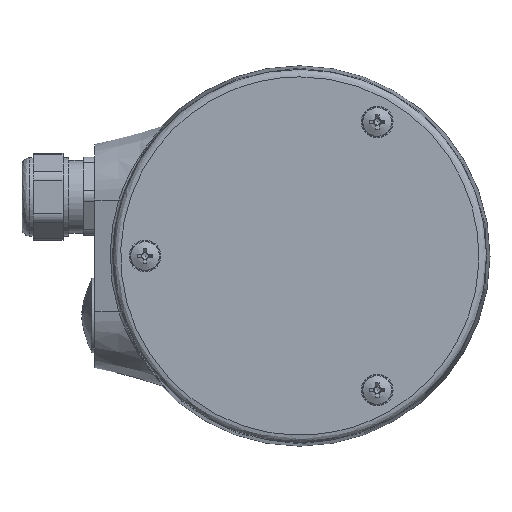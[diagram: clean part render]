
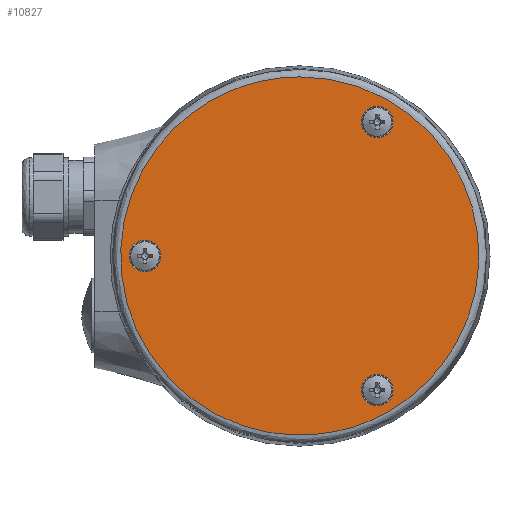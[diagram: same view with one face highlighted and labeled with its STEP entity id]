
A CAD part, front view. The second image highlights one B-rep face of the part: STEP entity #10827.
In plain terms, the highlighted planar face has unit normal (0, -1, 0).
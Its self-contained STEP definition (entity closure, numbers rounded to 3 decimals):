
#33 = EDGE_CURVE ( 'NONE', #2209, #2209, #8458, .T. ) ;
#52 = CARTESIAN_POINT ( 'NONE',  ( -91.393, -65.287, 98.963 ) ) ;
#86 = VERTEX_POINT ( 'NONE', #3898 ) ;
#307 = DIRECTION ( 'NONE',  ( 0., 0., -1. ) ) ;
#638 = CARTESIAN_POINT ( 'NONE',  ( -45.319, -65.287, 147. ) ) ;
#939 = FACE_BOUND ( 'NONE', #5767, .T. ) ;
#957 = CARTESIAN_POINT ( 'NONE',  ( 4.681, -65.287, 195.037 ) ) ;
#1042 = CARTESIAN_POINT ( 'NONE',  ( 25.431, -65.287, 106.81 ) ) ;
#1562 = PLANE ( 'NONE',  #10450 ) ;
#1829 = DIRECTION ( 'NONE',  ( 0., 0., -1. ) ) ;
#2209 = VERTEX_POINT ( 'NONE', #1042 ) ;
#2488 = DIRECTION ( 'NONE',  ( 0., 1., 0. ) ) ;
#2734 = EDGE_LOOP ( 'NONE', ( #10940 ) ) ;
#2738 = CARTESIAN_POINT ( 'NONE',  ( 4.681, -65.287, 195.037 ) ) ;
#2975 = CARTESIAN_POINT ( 'NONE',  ( 4.681, -65.287, 195.037 ) ) ;
#3248 = DIRECTION ( 'NONE',  ( 0., -1., 0. ) ) ;
#3352 = FACE_BOUND ( 'NONE', #2734, .T. ) ;
#3359 = FACE_OUTER_BOUND ( 'NONE', #5930, .T. ) ;
#3444 = FACE_BOUND ( 'NONE', #5339, .T. ) ;
#3898 = CARTESIAN_POINT ( 'NONE',  ( -36.819, -65.287, 142.75 ) ) ;
#4198 = EDGE_CURVE ( 'NONE', #7491, #7491, #9987, .T. ) ;
#4417 = EDGE_CURVE ( 'NONE', #86, #86, #7873, .T. ) ;
#4548 = DIRECTION ( 'NONE',  ( 0., -1., 0. ) ) ;
#5339 = EDGE_LOOP ( 'NONE', ( #9088 ) ) ;
#5417 = CARTESIAN_POINT ( 'NONE',  ( 4.681, -65.287, 98.963 ) ) ;
#5552 = ORIENTED_EDGE ( 'NONE', *, *, #4198, .F. ) ;
#5686 = DIRECTION ( 'NONE',  ( 0., -1., 0. ) ) ;
#5767 = EDGE_LOOP ( 'NONE', ( #6855 ) ) ;
#5930 = EDGE_LOOP ( 'NONE', ( #5552 ) ) ;
#6277 = CARTESIAN_POINT ( 'NONE',  ( -91.393, -65.287, 195.037 ) ) ;
#6855 = ORIENTED_EDGE ( 'NONE', *, *, #33, .F. ) ;
#7193 = AXIS2_PLACEMENT_3D ( 'NONE', #11053, #5686, #307 ) ;
#7292 = AXIS2_PLACEMENT_3D ( 'NONE', #10024, #3248, #1829 ) ;
#7491 = VERTEX_POINT ( 'NONE', #2975 ) ;
#7736 = AXIS2_PLACEMENT_3D ( 'NONE', #9854, #4548, #10776 ) ;
#7873 = CIRCLE ( 'NONE', #7193, 4.25 ) ;
#8031 = CARTESIAN_POINT ( 'NONE',  ( 100.755, -65.287, 195.037 ) ) ;
#8458 = CIRCLE ( 'NONE', #7292, 4.25 ) ;
#8667 = DIRECTION ( 'NONE',  ( 0., 0., 1. ) ) ;
#9088 = ORIENTED_EDGE ( 'NONE', *, *, #11452, .F. ) ;
#9854 = CARTESIAN_POINT ( 'NONE',  ( 25.431, -65.287, 182.94 ) ) ;
#9987 =( BOUNDED_CURVE ( )  B_SPLINE_CURVE ( 3, ( #2738, #8031, #10766, #5417, #52, #6277, #957 ),
 .UNSPECIFIED., .T., .F. ) 
 B_SPLINE_CURVE_WITH_KNOTS ( ( 4, 3, 4 ),
 ( 0., 0.5, 1. ),
 .UNSPECIFIED. ) 
 CURVE ( )  GEOMETRIC_REPRESENTATION_ITEM ( )  RATIONAL_B_SPLINE_CURVE ( ( 1., 0.333, 0.333, 1., 0.333, 0.333, 1. ) ) 
 REPRESENTATION_ITEM ( '' )  );
#10024 = CARTESIAN_POINT ( 'NONE',  ( 25.431, -65.287, 111.06 ) ) ;
#10209 = CARTESIAN_POINT ( 'NONE',  ( 25.431, -65.287, 178.69 ) ) ;
#10450 = AXIS2_PLACEMENT_3D ( 'NONE', #638, #2488, #8667 ) ;
#10682 = CIRCLE ( 'NONE', #7736, 4.25 ) ;
#10717 = VERTEX_POINT ( 'NONE', #10209 ) ;
#10766 = CARTESIAN_POINT ( 'NONE',  ( 100.755, -65.287, 98.963 ) ) ;
#10776 = DIRECTION ( 'NONE',  ( 0., 0., -1. ) ) ;
#10827 = ADVANCED_FACE ( 'NONE', ( #3359, #3352, #939, #3444 ), #1562, .F. ) ;
#10940 = ORIENTED_EDGE ( 'NONE', *, *, #4417, .F. ) ;
#11053 = CARTESIAN_POINT ( 'NONE',  ( -36.819, -65.287, 147. ) ) ;
#11452 = EDGE_CURVE ( 'NONE', #10717, #10717, #10682, .T. ) ;
